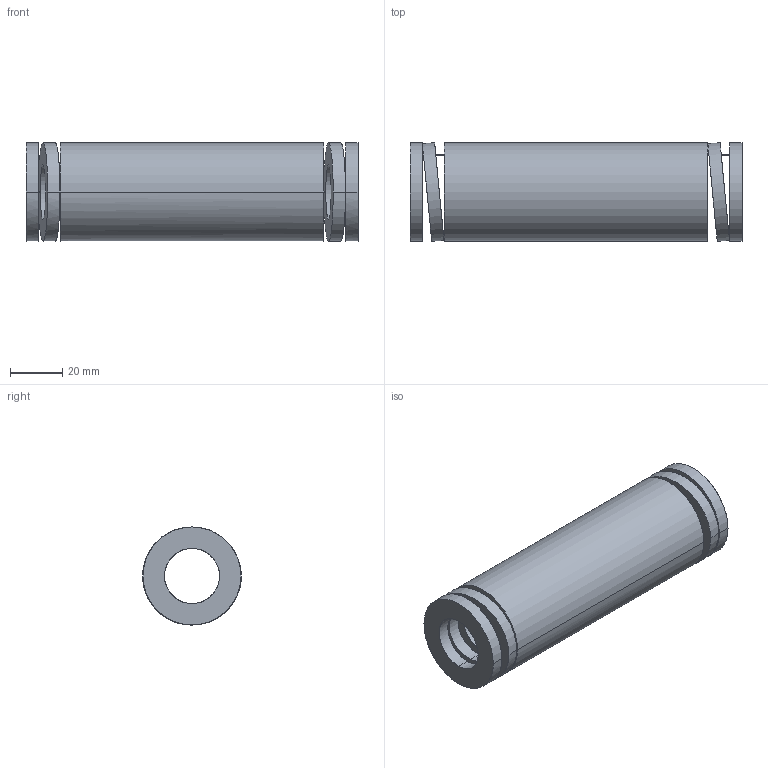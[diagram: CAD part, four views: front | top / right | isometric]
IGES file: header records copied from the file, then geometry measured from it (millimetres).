
Start section: START RECORD GO HERE.
Global section: file name: 392-B40-127.igs; native system: DASSAULT SYSTEMES CATIA V5 R20 - www.3ds.com; preprocessor: CATIA Version 5 Release 20 ; author: Utente; organization: NB04-ASUS; date: 20210813.131631; units: millimetre
Bounding box: 127 x 37.78 x 37.5 mm (x, y, z)
Surface area: 29566.8 mm2 (no closed solid volume)
Topology: 0 solids, 0 shells, 38 faces, 184 edges, 184 vertices
Faces by surface type: revolution 28, plane 10
